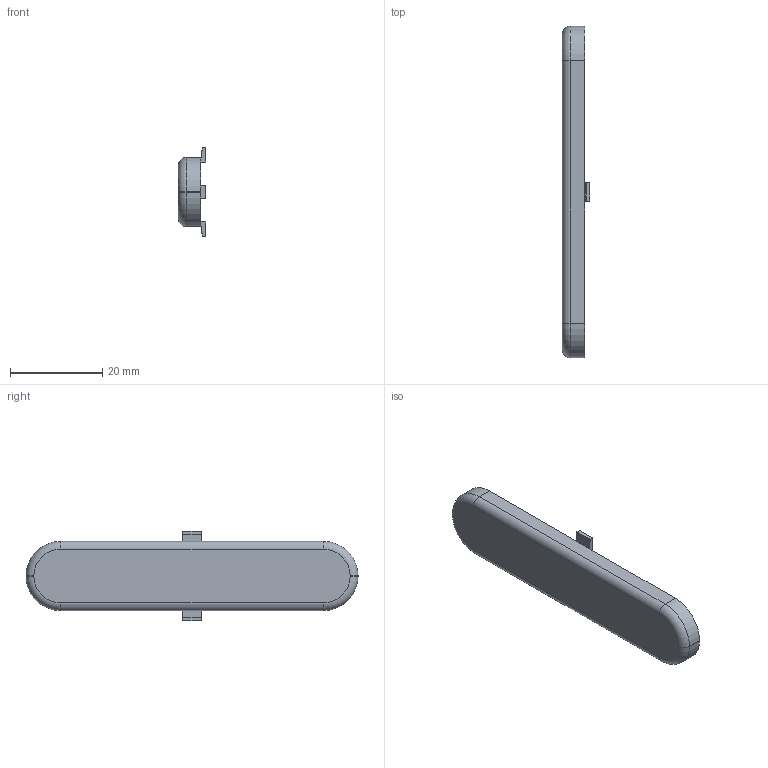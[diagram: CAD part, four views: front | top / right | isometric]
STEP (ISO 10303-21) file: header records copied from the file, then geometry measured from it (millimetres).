
FILE_DESCRIPTION(('Open CASCADE Model'),'2;1');
FILE_NAME('Open CASCADE Shape Model','2026-09-08T16:16:29',('Author'),( 'Open CASCADE'),'Open CASCADE STEP processor 7.7','Open CASCADE 7.7' ,'Unknown');
FILE_SCHEMA(('AUTOMOTIVE_DESIGN { 1 0 10303 214 1 1 1 1 }'));
Length unit declared in the file: millimetre
Products named in the file (1): Open CASCADE STEP translator 7.7 10
Bounding box: 5.9 x 72 x 19.4 mm (x, y, z)
Volume: 4886.4 mm3; surface area: 2797 mm2
Topology: 1 solids, 1 shells, 41 faces, 100 edges, 64 vertices
Faces by surface type: plane 29, cylinder 8, torus 4
Entity records: 2474 total; most frequent: CARTESIAN_POINT 432, DIRECTION 378, LINE 246, VECTOR 246, ORIENTED_EDGE 200, PCURVE 200, DEFINITIONAL_REPRESENTATION 200, EDGE_CURVE 100
